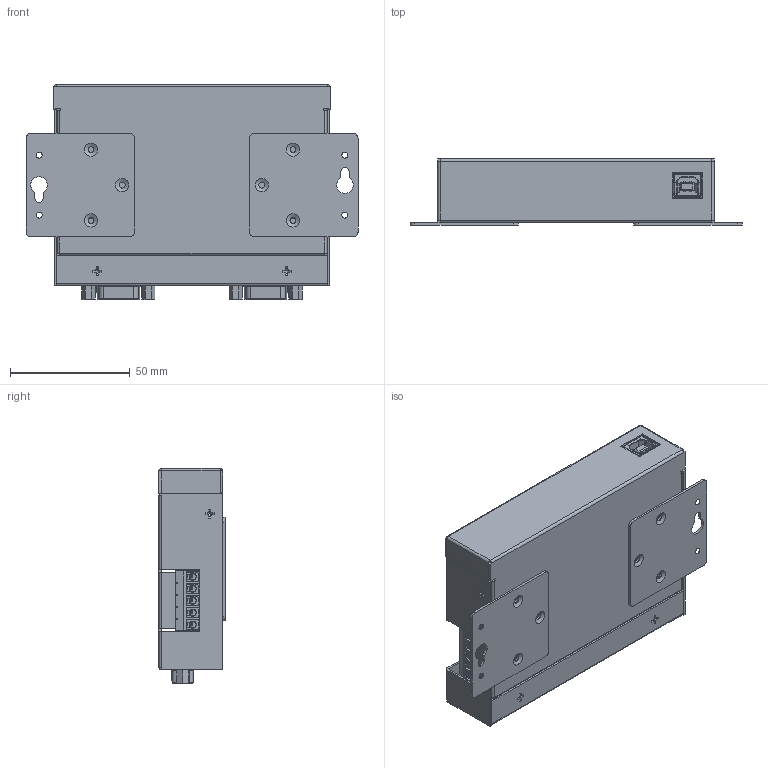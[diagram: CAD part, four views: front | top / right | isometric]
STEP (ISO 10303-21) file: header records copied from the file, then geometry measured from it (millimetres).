
FILE_DESCRIPTION(/* description */ (''),/* implementation_level */ '2;1');
FILE_NAME(/* name */ 'C:/Users/Leo/Desktop/AA CoolGear CADs/USB-2CAN-M/USB-2CAN-M Model3D LPV1.step',/* time_stamp */ '2021-09-29T15:38:34-04:00',/* author */ (''),/* organization */ (''),/* preprocessor_version */ 'ST-DEVELOPER v18.1',/* originating_system */ 'Autodesk Translation Framework v10.10.0.1391',/* authorisation */ '');
FILE_SCHEMA (('AUTOMOTIVE_DESIGN { 1 0 10303 214 3 1 1 }'));
Products named in the file (49): USB-2CAN-M; Component1; 93090A548_Press-Fit Threaded Standoffs; 93090A547_Press-Fit Threaded Standoffs; Component4; USB type B first Gen White v3; Housing1; pin1; shielding; pin2; shielding_2; Housing3; Terminal 5 holes srew v1; Terminal 5 holes srew v1(Mirror); Serial Port v1; Serial Port v1(Mirror); Bolt M3X0.5 90Angle head.5-4mmL v1; LED 3mm v5; 3mm_LED; led_energy (1); led_pin.1.1.1 (1); led_pin.2.1 (1); LED 3mm v5_1; 3mm_LED_1; led_energy (1)_1; led_energy; led_pin.1.1.1 (1)_1; led_pin.1.1.1; led_pin.2.1 (1)_1; led_pin.2.1; 3mm_LED (1); led_energy (1) (1); led_pin.1.1.1 (1) (1); led_pin.2.1 (1) (1); 3mm_LED (1)_1; led_energy (1) (1)_1; led_energy (2); led_pin.1.1.1 (1) (1)_1; led_pin.1.1.1 (2); led_pin.2.1 (1) (1)_1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
Assembly tree (62 placements, depth 5):
  USB-2CAN-M
    Component1
      93090A548_Press-Fit Threaded Standoffs  x2
      93090A547_Press-Fit Threaded Standoffs
    Component4
    USB type B first Gen White v3
      Housing1
      pin1  x2
      shielding
      pin2  x2
      shielding_2
      Housing3
    Terminal 5 holes srew v1
    Terminal 5 holes srew v1(Mirror)
    Serial Port v1
    Serial Port v1(Mirror)
    Bolt M3X0.5 90Angle head.5-4mmL v1  x5
    LED 3mm v5
      3mm_LED
        led_energy (1)
          led_energy
        led_pin.1.1.1 (1)
          led_pin.1.1.1
        led_pin.2.1 (1)
          led_pin.2.1
    LED 3mm v5_1
      3mm_LED_1
        led_energy (1)_1
          led_energy
        led_pin.1.1.1 (1)_1
          led_pin.1.1.1
        led_pin.2.1 (1)_1
          led_pin.2.1
    3mm_LED (1)
      led_energy (1) (1)
        led_energy (2)
      led_pin.1.1.1 (1) (1)
        led_pin.1.1.1 (2)
      led_pin.2.1 (1) (1)
        led_pin.2.1 (2)
    3mm_LED (1)_1
      led_energy (1) (1)_1
        led_energy (2)
      led_pin.1.1.1 (1) (1)_1
        led_pin.1.1.1 (2)
      led_pin.2.1 (1) (1)_1
        led_pin.2.1 (2)
    led_energy (1) (2)
      led_energy (3)
    led_pin.1.1.1 (1) (2)
      led_pin.1.1.1 (3)
    led_pin.2.1 (1) (2)
      led_pin.2.1 (3)
    Mounting plate SideR v3  x2
    Component43
Bounding box: 138.6 x 27.63 x 89.77 mm (x, y, z)
Volume: 60988.7 mm3; surface area: 102992 mm2
Topology: 4 solids, 5 shells, 2645 faces, 7150 edges, 4566 vertices
Faces by surface type: plane 1659, cylinder 692, torus 100, bspline 74, cone 68, sphere 52
Full cylindrical faces by diameter (mm): 1 x48, 1.5 x20, 2.04 x2, 2.24 x3, 2.323 x15, 2.35 x16, 2.529 x16, 2.6 x4, 2.8 x14, 2.998 x5, 3 x34, 3.3 x10, 3.5 x13, 3.643 x5, 4.765 x1, 5.4 x3
Entity records: 100133 total; most frequent: CARTESIAN_POINT 32905, ORIENTED_EDGE 14120, DIRECTION 13329, EDGE_CURVE 7060, LINE 5059, VECTOR 5059, VERTEX_POINT 4527, AXIS2_PLACEMENT_3D 4135
